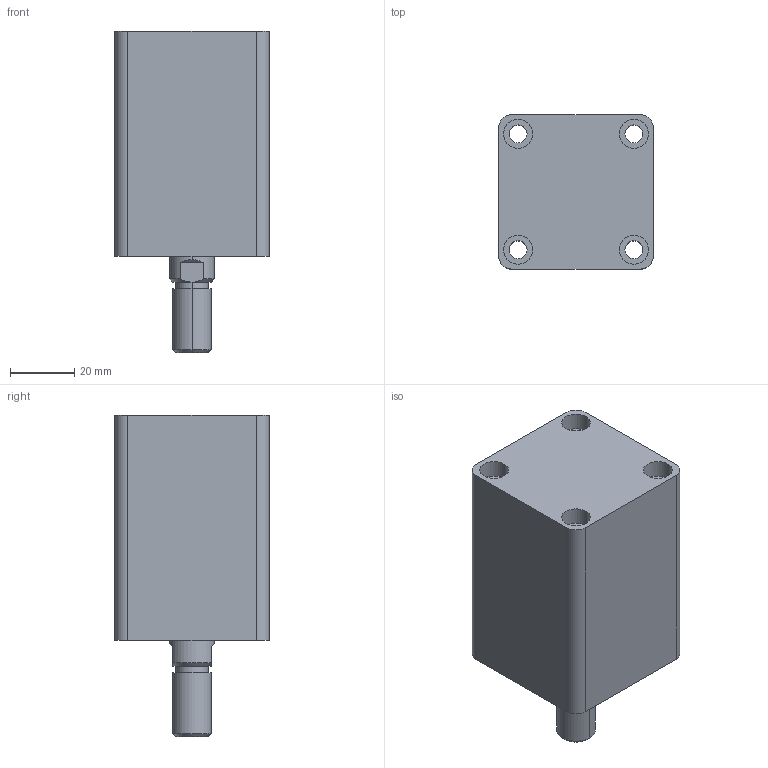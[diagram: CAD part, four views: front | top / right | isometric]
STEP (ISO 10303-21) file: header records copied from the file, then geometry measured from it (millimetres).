
FILE_DESCRIPTION (( 'STEP AP203' ), '1' );
FILE_NAME ('HTB-SD25-25W.STEP', '2019-10-07T05:59:18', ( '微软用户' ), ( '微软中国' ), 'SwSTEP 2.0', 'SolidWorks 2012', '' );
FILE_SCHEMA (( 'CONFIG_CONTROL_DESIGN' ));
Length unit declared in the file: millimetre
Products named in the file (3): HTB-SD25-25掛极; HTB-SD25-25W; HTB-SD25-25W活塞杆
Assembly tree (2 placements, depth 2):
  HTB-SD25-25W
    HTB-SD25-25掛极
    HTB-SD25-25W活塞杆
Bounding box: 48 x 48 x 100 mm (x, y, z)
Volume: 145833.2 mm3; surface area: 33352.7 mm2
Topology: 2 solids, 2 shells, 87 faces, 188 edges, 122 vertices
Faces by surface type: cylinder 44, plane 29, cone 8, torus 6
Entity records: 2759 total; most frequent: DIRECTION 476, CARTESIAN_POINT 446, ORIENTED_EDGE 376, AXIS2_PLACEMENT_3D 204, EDGE_CURVE 188, VERTEX_POINT 122, EDGE_LOOP 112, CIRCLE 112
